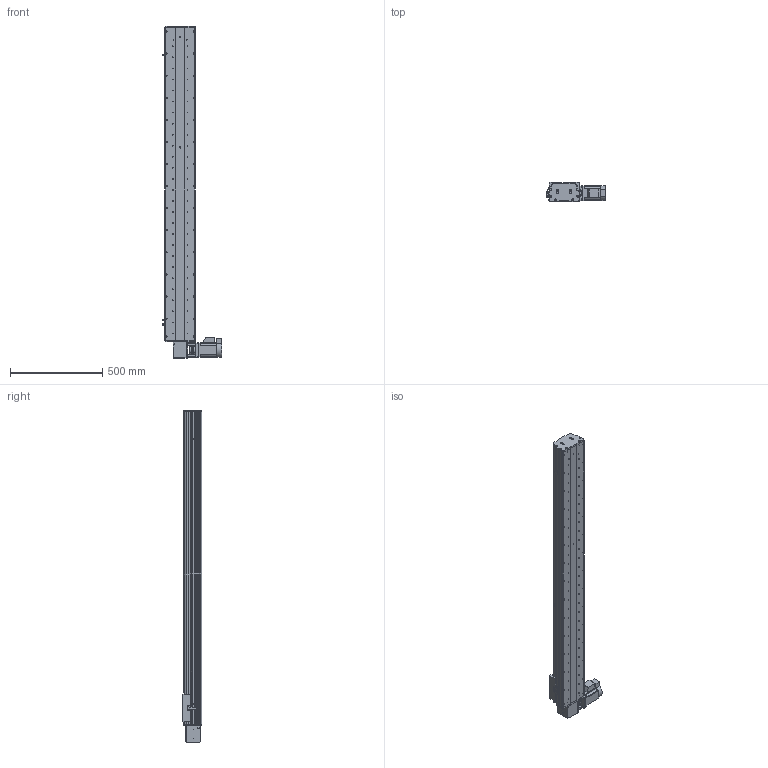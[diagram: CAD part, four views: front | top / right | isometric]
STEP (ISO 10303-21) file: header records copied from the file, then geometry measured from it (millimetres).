
FILE_DESCRIPTION (( 'STEP AP214' ), '1' );
FILE_NAME ('KSD165B-S1450-MRT-CM.STEP', '2017-08-14T06:11:27', ( '微软用户' ), ( '微软中国' ), 'SwSTEP 2.0', 'SolidWorks 2014', '' );
FILE_SCHEMA (( 'AUTOMOTIVE_DESIGN' ));
Length unit declared in the file: millimetre
Products named in the file (16): KSD165模组-同步带防尘盖1-1450行程; KSD165模组同步带底板-1450行程; 拸秶雄ん750W侜督萇儂; 165宽安装板同步带带电机座750W; 165宽马达安装板同步带右; C39ㄜ1419WP; U倰嫖萇假蚾璃; U倰嫖萇EEㄜSX672; 覜茼え68遵圉猾敕; KSD165模组-同步带-防撞垫2; KSD165模组同步带-防撞垫1; KSD165耀郪-ヶ傷啣1-肮祭湍; KSD165模组-后端板1-同步带; 130宽马达安装板1-带电机座750W（1）; KSD165模组-同步带滑动座-最新版; KSD165B-S1450-MRT-CM
Assembly tree (19 placements, depth 2):
  KSD165B-S1450-MRT-CM
    KSD165模组-同步带滑动座-最新版
    130宽马达安装板1-带电机座750W（1）
    KSD165模组-后端板1-同步带
    KSD165耀郪-ヶ傷啣1-肮祭湍
    KSD165模组同步带-防撞垫1
    KSD165模组-同步带-防撞垫2
    覜茼え68遵圉猾敕
    U倰嫖萇EEㄜSX672  x3
    U倰嫖萇假蚾璃  x3
    C39ㄜ1419WP
    165宽马达安装板同步带右
    165宽安装板同步带带电机座750W
    拸秶雄ん750W侜督萇儂
    KSD165模组同步带底板-1450行程
    KSD165模组-同步带防尘盖1-1450行程
Bounding box: 321.2 x 104 x 1804 mm (x, y, z)
Volume: 9914841.9 mm3; surface area: 2259816.4 mm2
Topology: 20 solids, 20 shells, 1582 faces, 4422 edges, 2869 vertices
Faces by surface type: cylinder 899, plane 589, cone 94
Entity records: 51271 total; most frequent: CARTESIAN_POINT 10745, DIRECTION 7928, ORIENTED_EDGE 7496, EDGE_CURVE 3748, AXIS2_PLACEMENT_3D 3036, VERTEX_POINT 2461, VECTOR 1856, LINE 1856
